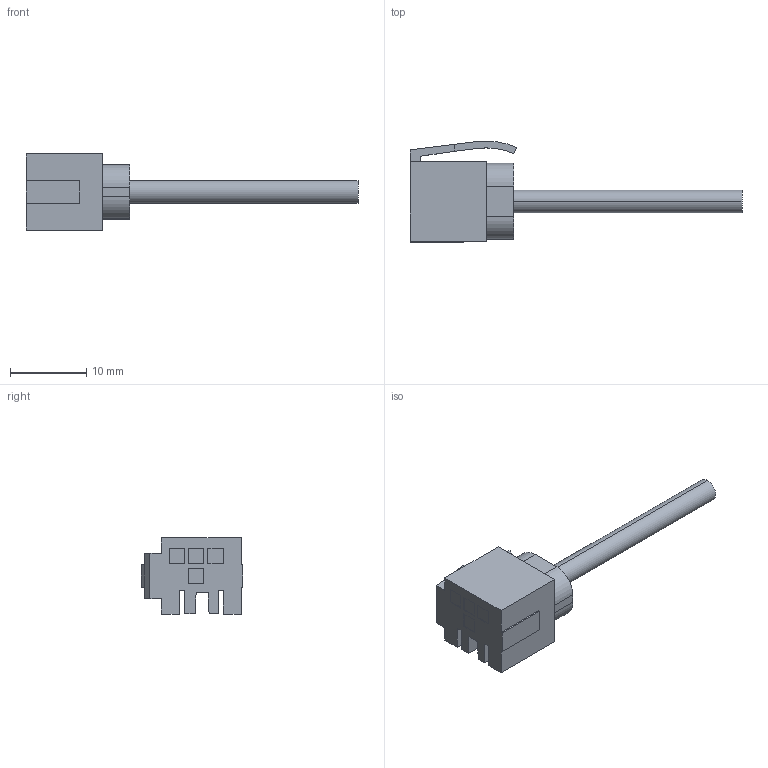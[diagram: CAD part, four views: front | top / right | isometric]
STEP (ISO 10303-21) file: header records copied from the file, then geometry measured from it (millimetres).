
FILE_DESCRIPTION (( 'STEP AP203' ), '1' );
FILE_NAME ('CN-74-C1.STEP', '2005-09-05T00:34:45', ( '川島良英' ), ( ' ' ), 'SwSTEP 2.0', 'SolidWorks 2004251', '' );
FILE_SCHEMA (( 'CONFIG_CONTROL_DESIGN' ));
Length unit declared in the file: millimetre
Products named in the file (1): CN-74-C1
Bounding box: 43.6 x 13.38 x 10 mm (x, y, z)
Volume: 1448.4 mm3; surface area: 1350.5 mm2
Topology: 1 solids, 1 shells, 73 faces, 194 edges, 128 vertices
Faces by surface type: plane 63, cylinder 10
Entity records: 2313 total; most frequent: CARTESIAN_POINT 396, ORIENTED_EDGE 388, DIRECTION 362, EDGE_CURVE 194, VECTOR 174, LINE 174, VERTEX_POINT 128, AXIS2_PLACEMENT_3D 94
